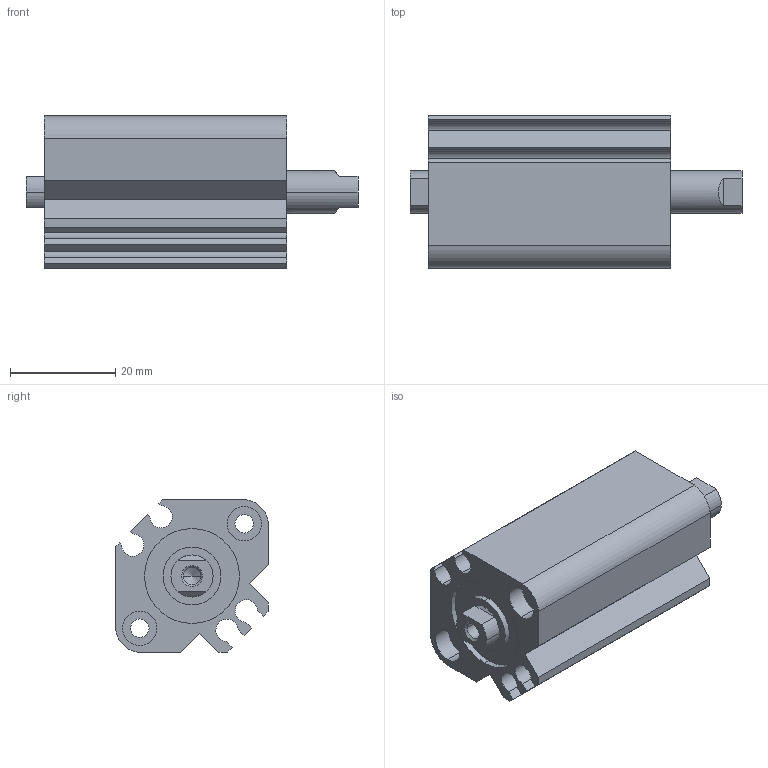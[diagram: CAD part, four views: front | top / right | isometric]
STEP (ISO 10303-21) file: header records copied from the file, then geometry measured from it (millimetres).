
FILE_DESCRIPTION (( 'STEP AP203' ), '1' );
FILE_NAME ('CCMB16-10F-P.STEP', '2020-08-05T11:03:06', ( '' ), ( '' ), 'SwSTEP 2.0', 'SolidWorks 2019', '' );
FILE_SCHEMA (( 'CONFIG_CONTROL_DESIGN' ));
Length unit declared in the file: millimetre
Products named in the file (1): CCMB16-10F-P
Bounding box: 63 x 29 x 29 mm (x, y, z)
Volume: 28181.6 mm3; surface area: 13961.7 mm2
Topology: 2 solids, 2 shells, 114 faces, 276 edges, 178 vertices
Faces by surface type: cylinder 52, plane 50, cone 12
Entity records: 3419 total; most frequent: DIRECTION 614, CARTESIAN_POINT 577, ORIENTED_EDGE 544, EDGE_CURVE 272, AXIS2_PLACEMENT_3D 231, VERTEX_POINT 178, VECTOR 152, LINE 152
